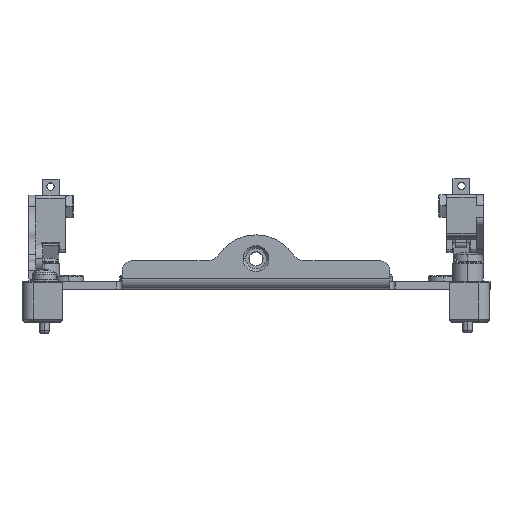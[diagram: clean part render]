
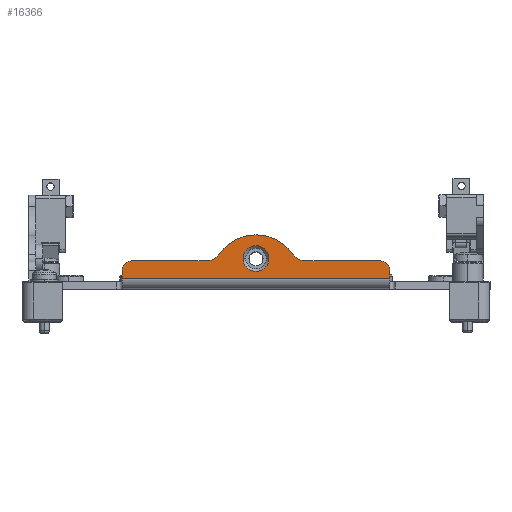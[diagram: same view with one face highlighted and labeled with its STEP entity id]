
A CAD part, top view. The second image highlights one B-rep face of the part: STEP entity #16366.
In plain terms, the highlighted planar face has unit normal (0, 0, 1).
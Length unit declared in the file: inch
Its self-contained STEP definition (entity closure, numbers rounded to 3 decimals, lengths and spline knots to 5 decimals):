
#234 = VERTEX_POINT ( 'NONE', #4970 ) ;
#254 = DIRECTION ( 'NONE',  ( 1., 0., 0. ) ) ;
#410 = DIRECTION ( 'NONE',  ( 0., 0., -1. ) ) ;
#485 = EDGE_CURVE ( 'NONE', #17691, #18739, #30742, .T. ) ;
#892 = AXIS2_PLACEMENT_3D ( 'NONE', #22079, #410, #25734 ) ;
#929 = AXIS2_PLACEMENT_3D ( 'NONE', #38503, #16924, #42152 ) ;
#1394 = CIRCLE ( 'NONE', #33574, 0.375 ) ;
#1762 = CARTESIAN_POINT ( 'NONE',  ( -1.126, 0.09, 1.9135 ) ) ;
#1775 = VERTEX_POINT ( 'NONE', #46407 ) ;
#2174 = VECTOR ( 'NONE', #9039, 39.37008 ) ;
#3200 = DIRECTION ( 'NONE',  ( 0., 0., 1. ) ) ;
#3279 = CARTESIAN_POINT ( 'NONE',  ( 1.126, 0.09, 1.9135 ) ) ;
#3683 = VECTOR ( 'NONE', #254, 39.37008 ) ;
#3689 = ORIENTED_EDGE ( 'NONE', *, *, #26200, .T. ) ;
#4762 = FACE_BOUND ( 'NONE', #6821, .T. ) ;
#4933 = PLANE ( 'NONE',  #40250 ) ;
#4970 = CARTESIAN_POINT ( 'NONE',  ( -1.046, 0.23622, 1.9135 ) ) ;
#5214 = VECTOR ( 'NONE', #21155, 39.37008 ) ;
#5254 = ORIENTED_EDGE ( 'NONE', *, *, #45257, .F. ) ;
#5799 = AXIS2_PLACEMENT_3D ( 'NONE', #35054, #13408, #38676 ) ;
#6369 = VERTEX_POINT ( 'NONE', #34925 ) ;
#6619 = CARTESIAN_POINT ( 'NONE',  ( -1.126, 0.23622, 1.9135 ) ) ;
#6764 = CARTESIAN_POINT ( 'NONE',  ( -1.046, 0.15622, 1.9135 ) ) ;
#6821 = EDGE_LOOP ( 'NONE', ( #46438, #44165 ) ) ;
#9039 = DIRECTION ( 'NONE',  ( 1., 0., 0. ) ) ;
#9833 = VERTEX_POINT ( 'NONE', #33578 ) ;
#10361 = DIRECTION ( 'NONE',  ( 0., -1., 0. ) ) ;
#10465 = VERTEX_POINT ( 'NONE', #31856 ) ;
#12946 = LINE ( 'NONE', #45729, #31021 ) ;
#13194 = CIRCLE ( 'NONE', #14848, 0.108 ) ;
#13408 = DIRECTION ( 'NONE',  ( 0., 0., 1. ) ) ;
#13813 = CIRCLE ( 'NONE', #5799, 0.08 ) ;
#14619 = ORIENTED_EDGE ( 'NONE', *, *, #40896, .T. ) ;
#14848 = AXIS2_PLACEMENT_3D ( 'NONE', #41361, #19732, #45003 ) ;
#14982 = ORIENTED_EDGE ( 'NONE', *, *, #39934, .F. ) ;
#15279 = ORIENTED_EDGE ( 'NONE', *, *, #21538, .F. ) ;
#15448 = VERTEX_POINT ( 'NONE', #3279 ) ;
#16021 = DIRECTION ( 'NONE',  ( 0., 0., -1. ) ) ;
#16366 = ADVANCED_FACE ( 'NONE', ( #4762, #42072 ), #4933, .F. ) ;
#16424 = ORIENTED_EDGE ( 'NONE', *, *, #485, .F. ) ;
#16924 = DIRECTION ( 'NONE',  ( 0., 0., 1. ) ) ;
#17273 = CARTESIAN_POINT ( 'NONE',  ( 1.126, 0.15622, 1.9135 ) ) ;
#17415 = EDGE_CURVE ( 'NONE', #38645, #1775, #42625, .T. ) ;
#17462 = EDGE_CURVE ( 'NONE', #24434, #10465, #13813, .T. ) ;
#17691 = VERTEX_POINT ( 'NONE', #22583 ) ;
#17919 = DIRECTION ( 'NONE',  ( 0., 0., -1. ) ) ;
#18000 = ORIENTED_EDGE ( 'NONE', *, *, #30901, .F. ) ;
#18739 = VERTEX_POINT ( 'NONE', #21853 ) ;
#19732 = DIRECTION ( 'NONE',  ( 0., 0., -1. ) ) ;
#20947 = ORIENTED_EDGE ( 'NONE', *, *, #21399, .T. ) ;
#21155 = DIRECTION ( 'NONE',  ( 0., -1., 0. ) ) ;
#21399 = EDGE_CURVE ( 'NONE', #234, #35583, #33115, .T. ) ;
#21538 = EDGE_CURVE ( 'NONE', #18739, #10465, #22925, .T. ) ;
#21801 = LINE ( 'NONE', #6619, #31354 ) ;
#21853 = CARTESIAN_POINT ( 'NONE',  ( 0.42028, 0.23622, 1.9135 ) ) ;
#22079 = CARTESIAN_POINT ( 'NONE',  ( 0., 0.25591, 1.9135 ) ) ;
#22583 = CARTESIAN_POINT ( 'NONE',  ( 0.30791, 0.29496, 1.9135 ) ) ;
#22925 = LINE ( 'NONE', #32627, #3683 ) ;
#24434 = VERTEX_POINT ( 'NONE', #17273 ) ;
#24885 = CARTESIAN_POINT ( 'NONE',  ( 0.42028, 0.37307, 1.9135 ) ) ;
#25734 = DIRECTION ( 'NONE',  ( 0., -1., 0. ) ) ;
#26200 = EDGE_CURVE ( 'NONE', #9833, #15448, #44948, .T. ) ;
#26653 = AXIS2_PLACEMENT_3D ( 'NONE', #24885, #3200, #28495 ) ;
#26829 = ORIENTED_EDGE ( 'NONE', *, *, #17462, .T. ) ;
#28236 = DIRECTION ( 'NONE',  ( 1., 0., 0. ) ) ;
#28378 = CARTESIAN_POINT ( 'NONE',  ( -1.126, 0.45276, 1.9135 ) ) ;
#28495 = DIRECTION ( 'NONE',  ( -1., 0., 0. ) ) ;
#30742 = CIRCLE ( 'NONE', #26653, 0.13685 ) ;
#30901 = EDGE_CURVE ( 'NONE', #24434, #15448, #12946, .T. ) ;
#31021 = VECTOR ( 'NONE', #34988, 39.37008 ) ;
#31354 = VECTOR ( 'NONE', #28236, 39.37008 ) ;
#31856 = CARTESIAN_POINT ( 'NONE',  ( 1.046, 0.23622, 1.9135 ) ) ;
#31872 = CARTESIAN_POINT ( 'NONE',  ( -0.42028, 0.23622, 1.9135 ) ) ;
#32008 = DIRECTION ( 'NONE',  ( 0., 0., 1. ) ) ;
#32523 = CARTESIAN_POINT ( 'NONE',  ( 0.108, 0.25591, 1.9135 ) ) ;
#32627 = CARTESIAN_POINT ( 'NONE',  ( 1.126, 0.23622, 1.9135 ) ) ;
#33085 = EDGE_CURVE ( 'NONE', #6369, #34539, #13194, .T. ) ;
#33115 = CIRCLE ( 'NONE', #40819, 0.08 ) ;
#33574 = AXIS2_PLACEMENT_3D ( 'NONE', #39516, #17919, #43144 ) ;
#33578 = CARTESIAN_POINT ( 'NONE',  ( -1.126, 0.09, 1.9135 ) ) ;
#34086 = CIRCLE ( 'NONE', #892, 0.108 ) ;
#34486 = CARTESIAN_POINT ( 'NONE',  ( -1.126, 0.15622, 1.9135 ) ) ;
#34539 = VERTEX_POINT ( 'NONE', #32523 ) ;
#34925 = CARTESIAN_POINT ( 'NONE',  ( -0.108, 0.25591, 1.9135 ) ) ;
#34988 = DIRECTION ( 'NONE',  ( 0., -1., 0. ) ) ;
#35054 = CARTESIAN_POINT ( 'NONE',  ( 1.046, 0.15622, 1.9135 ) ) ;
#35583 = VERTEX_POINT ( 'NONE', #34486 ) ;
#37635 = CARTESIAN_POINT ( 'NONE',  ( -1.1711, 0.45276, 1.9135 ) ) ;
#38503 = CARTESIAN_POINT ( 'NONE',  ( -0.42028, 0.37307, 1.9135 ) ) ;
#38645 = VERTEX_POINT ( 'NONE', #31872 ) ;
#38676 = DIRECTION ( 'NONE',  ( 0., -1., 0. ) ) ;
#39516 = CARTESIAN_POINT ( 'NONE',  ( 0., 0.08091, 1.9135 ) ) ;
#39934 = EDGE_CURVE ( 'NONE', #1775, #17691, #1394, .T. ) ;
#40250 = AXIS2_PLACEMENT_3D ( 'NONE', #37635, #16021, #41272 ) ;
#40559 = EDGE_CURVE ( 'NONE', #34539, #6369, #34086, .T. ) ;
#40819 = AXIS2_PLACEMENT_3D ( 'NONE', #6764, #32008, #10361 ) ;
#40896 = EDGE_CURVE ( 'NONE', #35583, #9833, #42525, .T. ) ;
#41272 = DIRECTION ( 'NONE',  ( 0., -1., 0. ) ) ;
#41361 = CARTESIAN_POINT ( 'NONE',  ( 0., 0.25591, 1.9135 ) ) ;
#42072 = FACE_OUTER_BOUND ( 'NONE', #42227, .T. ) ;
#42152 = DIRECTION ( 'NONE',  ( 1., 0., 0. ) ) ;
#42227 = EDGE_LOOP ( 'NONE', ( #44866, #5254, #20947, #14619, #3689, #18000, #26829, #15279, #16424, #14982 ) ) ;
#42525 = LINE ( 'NONE', #28378, #5214 ) ;
#42625 = CIRCLE ( 'NONE', #929, 0.13685 ) ;
#43144 = DIRECTION ( 'NONE',  ( -1., 0., 0. ) ) ;
#44165 = ORIENTED_EDGE ( 'NONE', *, *, #40559, .T. ) ;
#44866 = ORIENTED_EDGE ( 'NONE', *, *, #17415, .F. ) ;
#44948 = LINE ( 'NONE', #1762, #2174 ) ;
#45003 = DIRECTION ( 'NONE',  ( 0., -1., 0. ) ) ;
#45257 = EDGE_CURVE ( 'NONE', #234, #38645, #21801, .T. ) ;
#45729 = CARTESIAN_POINT ( 'NONE',  ( 1.126, 0.45276, 1.9135 ) ) ;
#46407 = CARTESIAN_POINT ( 'NONE',  ( -0.30791, 0.29496, 1.9135 ) ) ;
#46438 = ORIENTED_EDGE ( 'NONE', *, *, #33085, .T. ) ;
